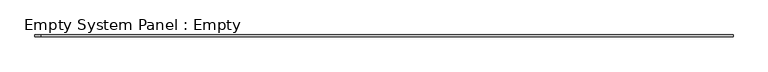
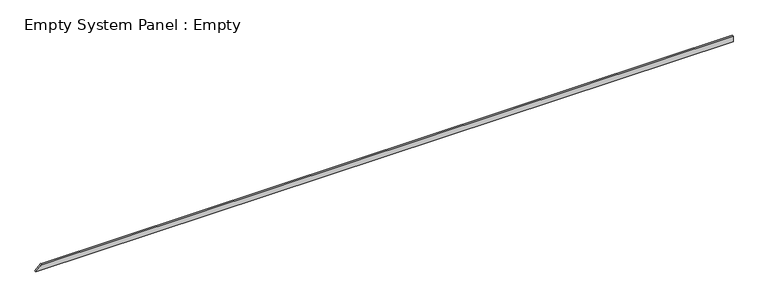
"""IFC4 building model written with IfcOpenShell, lengths in millimetres: plate geometry, Empty System Panel : Empty."""

from ifc_helpers import new_model, si_unit, frame, origin, place, context, project, spatial, polyline, outline, extrude, source, transform, mapped, element, save


def empty_system_panel_empty_49417612(model_context):
    return source(origin(), model_context, "Body", "SweptSolid", [
        extrude(outline(polyline([(0.0, -19447.6465172), (0.0, 19447.6465172), (310.0, 19447.6465172), (310.0, -19121.2975207), (330.0, -19121.2975207), (0.0, -19447.6465172)])), frame((0.0, -50.0, 0.0), z_axis=(0.0, 1.0, 0.0), x_axis=(0.0, 0.0, 1.0)), (0.0, 0.0, 1.0), 100.0),
    ])


if __name__ == "__main__":
    model = new_model("IFC4")
    model_context = context("Model", 3, world=origin())
    ifc_project = project(units=[si_unit("LENGTHUNIT", "METRE", prefix="MILLI")], contexts=[model_context])
    site = spatial("IfcSite", under=ifc_project)
    building = spatial("IfcBuilding", under=site)
    placement = place(None, origin())
    empty_system_panel_empty_shape = empty_system_panel_empty_49417612(model_context)
    element("IfcPlate", 1, ObjectType="Empty System Panel : Empty", at=placement, inside=building, context=model_context, shape_type="MappedRepresentation", body=[
        mapped(empty_system_panel_empty_shape, transform((0.0, 0.0, 0.0), x_axis=(1.0, 0.0, 0.0), y_axis=(0.0, 1.0, 0.0), z_axis=(0.0, 0.0, 1.0))),
    ])
    save(model, "model.ifc")
